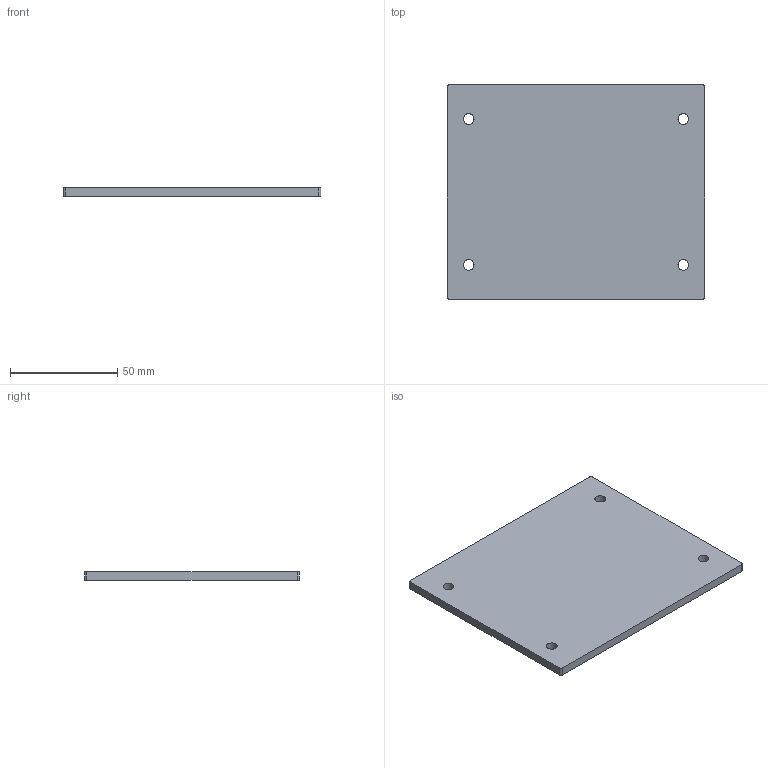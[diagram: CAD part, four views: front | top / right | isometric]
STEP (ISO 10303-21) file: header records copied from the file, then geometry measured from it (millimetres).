
FILE_DESCRIPTION(('HOOPS Exchange Step'),'2;1');
FILE_NAME('/private/var/mobile/Containers/Data/Application/E4481369-A8C6-45C6-A958-B1853E49479D/tmp/export/temp_export','2021-04-12T21:44:15+00:00',('mobile'),('Shapr3D Limited'),'HOOPS Exchange 2020.2','Shapr3D','Authorized');
FILE_SCHEMA( ('AP203_CONFIGURATION_CONTROLLED_3D_DESIGN_OF_MECHANICAL_PARTS_AND_ASSEMBLIES_MIM_LF') );
Length unit declared in the file: millimetre
Products named in the file (3): 0; /private/var/mobile/Containers/Data/Application/E4481369-A8C6-45C6-A958-B1853E49479D/tmp/35E4A76F-97B1-4360-9AED-AB355F1091C7.tmp
Assembly tree (2 placements, depth 3):
  /private/var/mobile/Containers/Data/Application/E4481369-A8C6-45C6-A958-B1853E49479D/tmp/35E4A76F-97B1-4360-9AED-AB355F1091C7.tmp
    0
      0
Bounding box: 120 x 100 x 4 mm (x, y, z)
Volume: 47682.4 mm3; surface area: 25845.7 mm2
Topology: 1 solids, 1 shells, 14 faces, 38 edges, 26 vertices
Faces by surface type: cylinder 8, plane 6
Full cylindrical faces by diameter (mm): 5 x4
Entity records: 542 total; most frequent: DIRECTION 94, CARTESIAN_POINT 83, ORIENTED_EDGE 76, EDGE_CURVE 38, AXIS2_PLACEMENT_3D 37, VERTEX_POINT 26, EDGE_LOOP 22, FACE_BOUND 22
